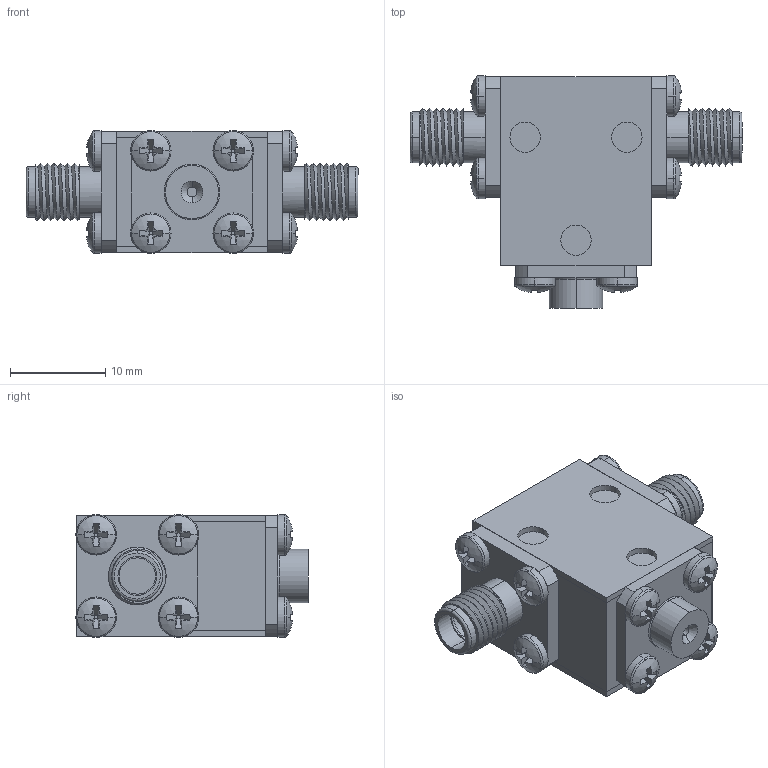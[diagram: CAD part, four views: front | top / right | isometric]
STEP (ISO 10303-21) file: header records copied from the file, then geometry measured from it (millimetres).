
FILE_DESCRIPTION (( 'STEP AP214' ), '1' );
FILE_NAME ('Package 6 Iso FF.step', '2021-12-01T21:01:27', ( '' ), ( '' ), 'SwSTEP 2.0', 'SolidWorks 2016', '' );
FILE_SCHEMA (( 'AUTOMOTIVE_DESIGN' ));
Length unit declared in the file: inch
Products named in the file (7): Package Size 6; Package 6; 0.5 x 0.5 Blank Template; Package 6 Iso FF; Delta SMA-Female 0.500 flange Threaded; 030013-1A; pan cross head_ai_CR-PHMS 0.086-56x0.125x0.125-N
Assembly tree (18 placements, depth 2):
  Package 6 Iso FF
    Package Size 6
    Package 6
    Delta SMA-Female 0.500 flange Threaded  x2
    030013-1A
    pan cross head_ai_CR-PHMS 0.086-56x0.125x0.125-N  x12
    0.5 x 0.5 Blank Template
Bounding box: 34.8 x 24.35 x 12.88 mm (x, y, z)
Volume: 5078.8 mm3; surface area: 5862.2 mm2
Topology: 18 solids, 18 shells, 424 faces, 966 edges, 598 vertices
Faces by surface type: plane 234, cylinder 126, torus 30, sphere 24, bspline 6, cone 4
Entity records: 5107 total; most frequent: CARTESIAN_POINT 1420, DIRECTION 771, ORIENTED_EDGE 642, EDGE_CURVE 321, AXIS2_PLACEMENT_3D 308, VERTEX_POINT 207, EDGE_LOOP 170, CIRCLE 158
